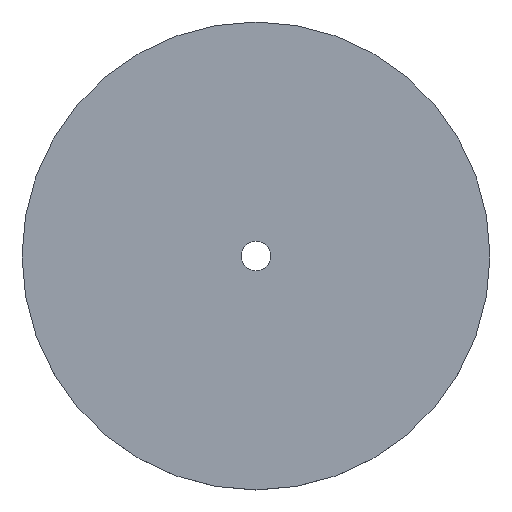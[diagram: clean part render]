
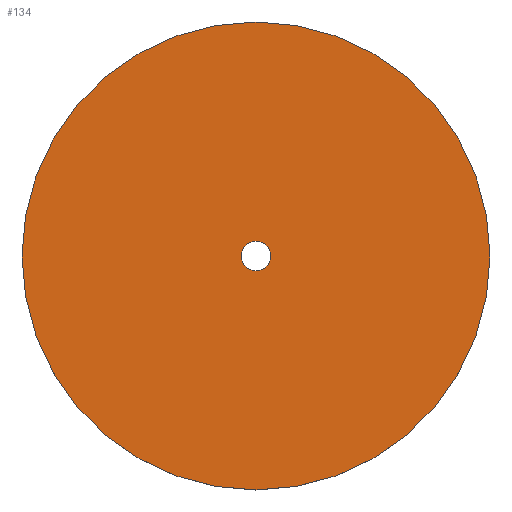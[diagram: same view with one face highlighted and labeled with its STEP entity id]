
A CAD part, top view. The second image highlights one B-rep face of the part: STEP entity #134.
In plain terms, the highlighted planar face has unit normal (0, 0, 1).
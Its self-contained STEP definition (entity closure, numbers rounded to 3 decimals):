
#29=CARTESIAN_POINT('',(0.,0.,0.7));
#30=DIRECTION('',(0.,0.,1.));
#31=DIRECTION('',(1.,0.,0.));
#32=AXIS2_PLACEMENT_3D('',#29,#30,#31);
#34=CARTESIAN_POINT('',(0.,0.,0.7));
#35=DIRECTION('',(0.,0.,1.));
#36=DIRECTION('',(-1.,0.,0.));
#37=AXIS2_PLACEMENT_3D('',#34,#35,#36);
#39=CARTESIAN_POINT('',(0.,0.,0.7));
#40=DIRECTION('',(0.,0.,1.));
#41=DIRECTION('',(1.,0.,0.));
#42=AXIS2_PLACEMENT_3D('',#39,#40,#41);
#44=CARTESIAN_POINT('',(0.,0.,0.7));
#45=DIRECTION('',(0.,0.,1.));
#46=DIRECTION('',(-1.,0.,0.));
#47=AXIS2_PLACEMENT_3D('',#44,#45,#46);
#61=CARTESIAN_POINT('',(6.35,0.,0.7));
#62=CARTESIAN_POINT('',(-6.35,0.,0.7));
#63=VERTEX_POINT('',#61);
#64=VERTEX_POINT('',#62);
#69=CARTESIAN_POINT('',(0.4,0.,0.7));
#70=CARTESIAN_POINT('',(-0.4,0.,0.7));
#71=VERTEX_POINT('',#69);
#72=VERTEX_POINT('',#70);
#119=CARTESIAN_POINT('',(0.,0.,0.7));
#120=DIRECTION('',(0.,0.,1.));
#121=DIRECTION('',(1.,0.,0.));
#122=AXIS2_PLACEMENT_3D('',#119,#120,#121);
#123=PLANE('',#122);
#124=ORIENTED_EDGE('',*,*,#99,.F.);
#125=ORIENTED_EDGE('',*,*,#113,.F.);
#126=EDGE_LOOP('',(#124,#125));
#127=FACE_OUTER_BOUND('',#126,.F.);
#129=ORIENTED_EDGE('',*,*,#128,.T.);
#131=ORIENTED_EDGE('',*,*,#130,.T.);
#132=EDGE_LOOP('',(#129,#131));
#133=FACE_BOUND('',#132,.F.);
#134=ADVANCED_FACE('',(#127,#133),#123,.T.);
#33=CIRCLE('',#32,6.35);
#38=CIRCLE('',#37,6.35);
#43=CIRCLE('',#42,0.4);
#48=CIRCLE('',#47,0.4);
#99=EDGE_CURVE('',#63,#64,#33,.T.);
#113=EDGE_CURVE('',#64,#63,#38,.T.);
#128=EDGE_CURVE('',#71,#72,#43,.T.);
#130=EDGE_CURVE('',#72,#71,#48,.T.);
